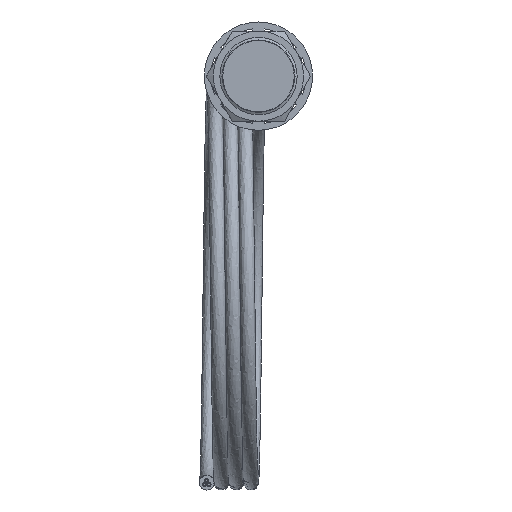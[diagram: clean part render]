
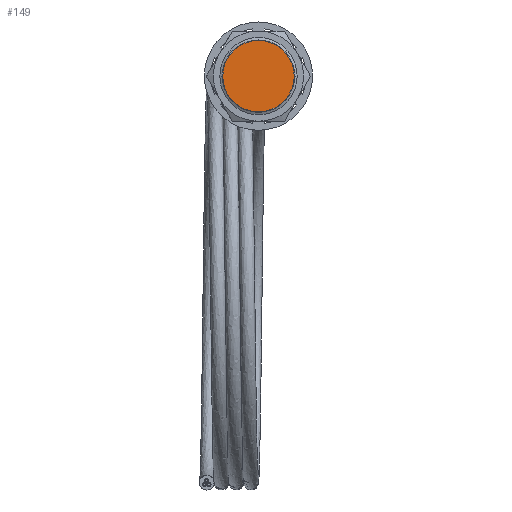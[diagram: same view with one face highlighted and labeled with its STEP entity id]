
A CAD part, left-side view. The second image highlights one B-rep face of the part: STEP entity #149.
In plain terms, the highlighted planar face has unit normal (-1, 0, 0).
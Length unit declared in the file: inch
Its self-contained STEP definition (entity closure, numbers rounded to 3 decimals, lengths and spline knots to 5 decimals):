
#149 = ADVANCED_FACE ( 'NONE', ( #13201 ), #13202, .T. ) ;
#1725 = EDGE_CURVE ( 'NONE', #9706, #9967, #14029, .T. ) ;
#3753 = CARTESIAN_POINT ( 'NONE',  ( 0.84792, 4.51998, -0.49599 ) ) ;
#3975 = CARTESIAN_POINT ( 'NONE',  ( 0.84792, 4.51998, 0.59701 ) ) ;
#4217 = CIRCLE ( 'NONE', #4218, 0.5465 ) ;
#4218 = AXIS2_PLACEMENT_3D ( 'NONE', #4219, #4220, #4221 ) ;
#4219 = CARTESIAN_POINT ( 'NONE',  ( 0.84792, 4.51998, 0.05051 ) ) ;
#4220 = DIRECTION ( 'NONE',  ( -1., 0., 0. ) ) ;
#4221 = DIRECTION ( 'NONE',  ( 0., 0., -1. ) ) ;
#9706 = VERTEX_POINT ( 'NONE', #3753 ) ;
#9967 = VERTEX_POINT ( 'NONE', #3975 ) ;
#10214 = EDGE_CURVE ( 'NONE', #9967, #9706, #4217, .T. ) ;
#13201 = FACE_OUTER_BOUND ( 'NONE', #15347, .T. ) ;
#13202 = PLANE ( 'NONE',  #13203 ) ;
#13203 = AXIS2_PLACEMENT_3D ( 'NONE', #13206, #13207, #13208 ) ;
#13206 = CARTESIAN_POINT ( 'NONE',  ( 0.84792, 4.51998, 0.05051 ) ) ;
#13207 = DIRECTION ( 'NONE',  ( -1., 0., 0. ) ) ;
#13208 = DIRECTION ( 'NONE',  ( 0., 0., 1. ) ) ;
#14024 = ORIENTED_EDGE ( 'NONE', *, *, #10214, .T. ) ;
#14029 = CIRCLE ( 'NONE', #14030, 0.5465 ) ;
#14030 = AXIS2_PLACEMENT_3D ( 'NONE', #14031, #14032, #14033 ) ;
#14031 = CARTESIAN_POINT ( 'NONE',  ( 0.84792, 4.51998, 0.05051 ) ) ;
#14032 = DIRECTION ( 'NONE',  ( -1., 0., 0. ) ) ;
#14033 = DIRECTION ( 'NONE',  ( 0., 0., -1. ) ) ;
#14599 = ORIENTED_EDGE ( 'NONE', *, *, #1725, .T. ) ;
#15347 = EDGE_LOOP ( 'NONE', ( #14599, #14024 ) ) ;
